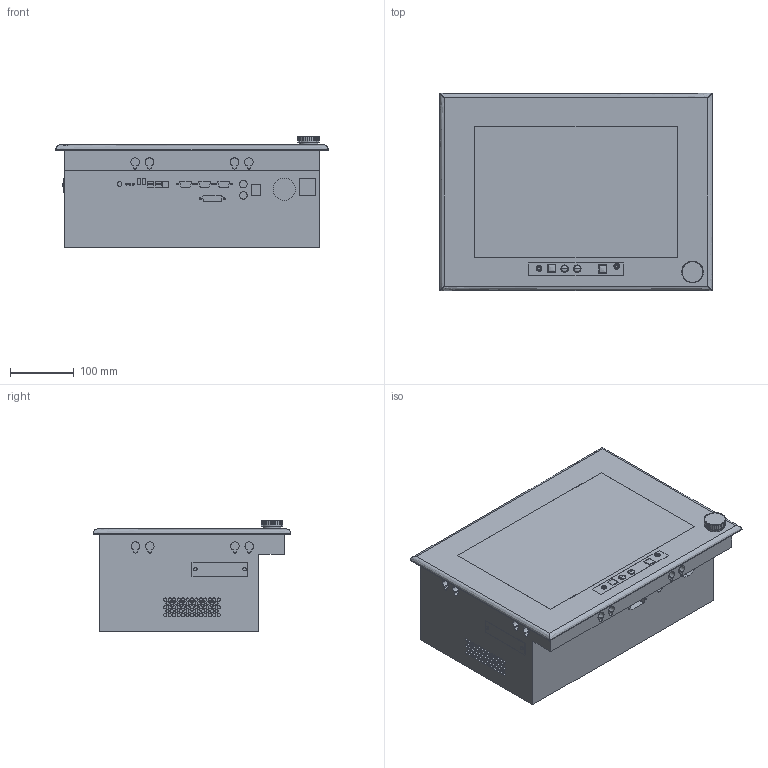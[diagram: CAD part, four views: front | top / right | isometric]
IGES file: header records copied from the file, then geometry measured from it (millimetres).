
Start section:  PTC IGES file: ippc-9151_step.igs
Global section: file name: ippc-9151_step.igs; native system: Pro/ENGINEER by Parametric Technology Corporation; preprocessor: 2006080; author: jpfaff; organization: Unknown; date: 090519.135534; units: millimetre
Bounding box: 428 x 310 x 176 mm (x, y, z)
Surface area: 594768.9 mm2 (no closed solid volume)
Topology: 0 solids, 0 shells, 2833 faces, 11965 edges, 11897 vertices
Faces by surface type: revolution 1861, bspline 972
